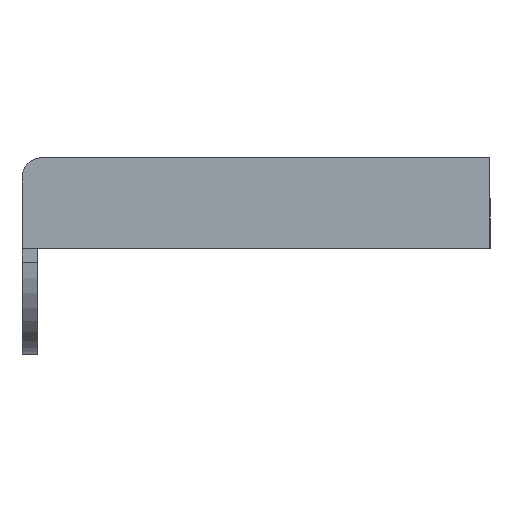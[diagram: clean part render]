
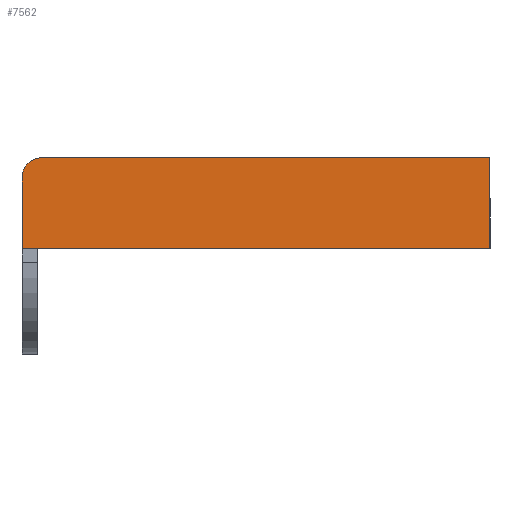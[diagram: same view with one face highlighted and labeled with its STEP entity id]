
A CAD part, left-side view. The second image highlights one B-rep face of the part: STEP entity #7562.
In plain terms, the highlighted planar face has unit normal (-1, 0, 0) as drawn and (0, -1, 0) by its records, which use the part's own axes.
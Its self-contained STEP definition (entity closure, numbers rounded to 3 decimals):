
#43 = CARTESIAN_POINT ( 'NONE',  ( 6.8, 105., -42.5 ) ) ;
#109 = DIRECTION ( 'NONE',  ( -1., 0., 0. ) ) ;
#182 = CARTESIAN_POINT ( 'NONE',  ( -7.2, 105., -131. ) ) ;
#308 = CARTESIAN_POINT ( 'NONE',  ( -11.2, 105., -42.5 ) ) ;
#352 = VERTEX_POINT ( 'NONE', #9122 ) ;
#1108 = CIRCLE ( 'NONE', #3914, 4. ) ;
#1956 = VERTEX_POINT ( 'NONE', #3512 ) ;
#1998 = VECTOR ( 'NONE', #9304, 1000. ) ;
#2496 = CARTESIAN_POINT ( 'NONE',  ( 6.8, 105., -135. ) ) ;
#2631 = VECTOR ( 'NONE', #2731, 1000. ) ;
#2685 = LINE ( 'NONE', #4289, #2631 ) ;
#2731 = DIRECTION ( 'NONE',  ( 1., 0., 0. ) ) ;
#2741 = DIRECTION ( 'NONE',  ( 0., 0., -1. ) ) ;
#2846 = VERTEX_POINT ( 'NONE', #6560 ) ;
#2878 = LINE ( 'NONE', #9535, #5339 ) ;
#3061 = EDGE_CURVE ( 'NONE', #7934, #2846, #4113, .T. ) ;
#3336 = ORIENTED_EDGE ( 'NONE', *, *, #3544, .F. ) ;
#3493 = ORIENTED_EDGE ( 'NONE', *, *, #8987, .F. ) ;
#3512 = CARTESIAN_POINT ( 'NONE',  ( -7.2, 105., -135. ) ) ;
#3544 = EDGE_CURVE ( 'NONE', #7934, #7604, #2685, .T. ) ;
#3914 = AXIS2_PLACEMENT_3D ( 'NONE', #182, #4032, #4708 ) ;
#4032 = DIRECTION ( 'NONE',  ( 0., 1., 0. ) ) ;
#4113 = LINE ( 'NONE', #308, #1998 ) ;
#4289 = CARTESIAN_POINT ( 'NONE',  ( -11.2, 105., -42.5 ) ) ;
#4370 = ORIENTED_EDGE ( 'NONE', *, *, #3061, .T. ) ;
#4537 = AXIS2_PLACEMENT_3D ( 'NONE', #7570, #9083, #6879 ) ;
#4570 = FACE_OUTER_BOUND ( 'NONE', #5879, .T. ) ;
#4579 = CARTESIAN_POINT ( 'NONE',  ( -11.2, 105., -42.5 ) ) ;
#4708 = DIRECTION ( 'NONE',  ( 0., 0., -1. ) ) ;
#5339 = VECTOR ( 'NONE', #2741, 1000. ) ;
#5640 = VECTOR ( 'NONE', #109, 1000. ) ;
#5672 = ORIENTED_EDGE ( 'NONE', *, *, #6571, .F. ) ;
#5879 = EDGE_LOOP ( 'NONE', ( #4370, #5672, #6625, #3493, #3336 ) ) ;
#6202 = LINE ( 'NONE', #2496, #5640 ) ;
#6560 = CARTESIAN_POINT ( 'NONE',  ( -11.2, 105., -131. ) ) ;
#6571 = EDGE_CURVE ( 'NONE', #1956, #2846, #1108, .T. ) ;
#6625 = ORIENTED_EDGE ( 'NONE', *, *, #7372, .F. ) ;
#6879 = DIRECTION ( 'NONE',  ( 0., 0., -1. ) ) ;
#7372 = EDGE_CURVE ( 'NONE', #352, #1956, #6202, .T. ) ;
#7562 = ADVANCED_FACE ( 'NONE', ( #4570 ), #8196, .T. ) ;
#7570 = CARTESIAN_POINT ( 'NONE',  ( -11.2, 105., -135. ) ) ;
#7604 = VERTEX_POINT ( 'NONE', #43 ) ;
#7934 = VERTEX_POINT ( 'NONE', #4579 ) ;
#8196 = PLANE ( 'NONE',  #4537 ) ;
#8987 = EDGE_CURVE ( 'NONE', #7604, #352, #2878, .T. ) ;
#9083 = DIRECTION ( 'NONE',  ( 0., -1., 0. ) ) ;
#9122 = CARTESIAN_POINT ( 'NONE',  ( 6.8, 105., -135. ) ) ;
#9304 = DIRECTION ( 'NONE',  ( 0., 0., -1. ) ) ;
#9535 = CARTESIAN_POINT ( 'NONE',  ( 6.8, 105., -42.5 ) ) ;
